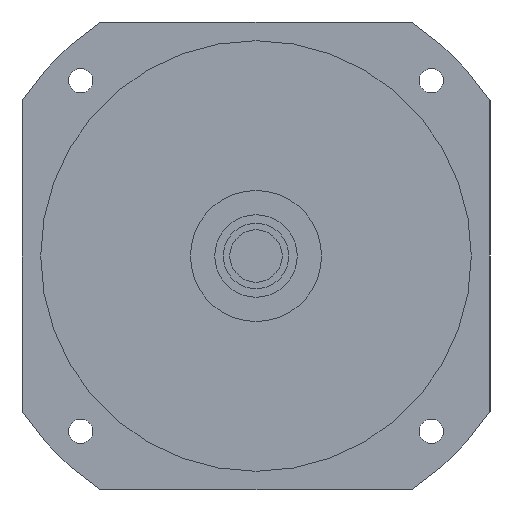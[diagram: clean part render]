
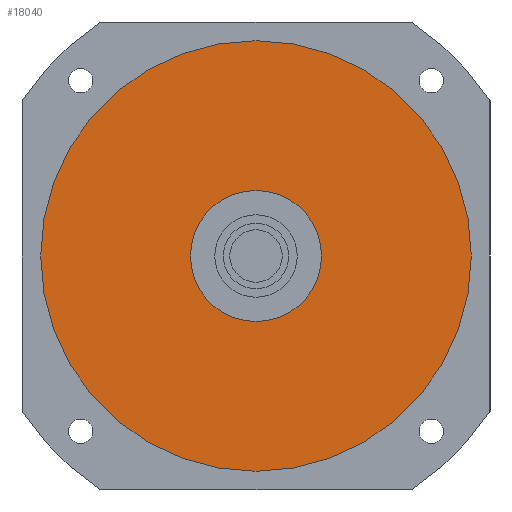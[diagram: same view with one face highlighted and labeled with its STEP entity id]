
A CAD part, left-side view. The second image highlights one B-rep face of the part: STEP entity #18040.
In plain terms, the highlighted planar face has unit normal (-1, 0, 0) as drawn and (0, 0, -1) by its records, which use the part's own axes.
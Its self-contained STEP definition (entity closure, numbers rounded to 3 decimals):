
#17460=CARTESIAN_POINT('',(115.,0.,-80.2));
#17470=VERTEX_POINT('',#17460);
#17560=CARTESIAN_POINT('',(-115.,0.,-80.2));
#17570=VERTEX_POINT('',#17560);
#17600=CARTESIAN_POINT('',(0.,0.,
-80.2));
#17610=DIRECTION('',(0.,0.,1.));
#17620=DIRECTION('',(0.,1.,0.));
#17630=AXIS2_PLACEMENT_3D('',#17600,#17610,#17620);
#17640=CIRCLE('',#17630,115.);
#17650=CARTESIAN_POINT('',(0.,115.,-80.2));
#17660=VERTEX_POINT('',#17650);
#17670=EDGE_CURVE('',#17660,#17570,#17640,.T.);
#17690=EDGE_CURVE('',#17470,#17660,#17640,.T.);
#17740=CARTESIAN_POINT('',(0.,0.,
-80.2));
#17750=DIRECTION('',(0.,0.,1.));
#17760=DIRECTION('',(-1.,0.,0.));
#17770=AXIS2_PLACEMENT_3D('',#17740,#17750,#17760);
#17780=PLANE('',#17770);
#17790=CARTESIAN_POINT('',(0.,0.,
-80.2));
#17800=DIRECTION('',(0.,0.,1.));
#17810=DIRECTION('',(0.,1.,0.));
#17820=AXIS2_PLACEMENT_3D('',#17790,#17800,#17810);
#17830=CIRCLE('',#17820,35.);
#17840=CARTESIAN_POINT('',(-35.,0.,-80.2));
#17850=VERTEX_POINT('',#17840);
#17860=CARTESIAN_POINT('',(35.,0.,-80.2));
#17870=VERTEX_POINT('',#17860);
#17880=EDGE_CURVE('',#17850,#17870,#17830,.T.);
#17890=ORIENTED_EDGE('',*,*,#17880,.T.);
#17900=CARTESIAN_POINT('',(0.,35.,-80.2));
#17910=VERTEX_POINT('',#17900);
#17920=EDGE_CURVE('',#17910,#17850,#17830,.T.);
#17930=ORIENTED_EDGE('',*,*,#17920,.T.);
#17940=EDGE_CURVE('',#17870,#17910,#17830,.T.);
#17950=ORIENTED_EDGE('',*,*,#17940,.T.);
#17960=EDGE_LOOP('',(#17950,#17930,#17890));
#17970=FACE_BOUND('',#17960,.T.);
#17980=ORIENTED_EDGE('',*,*,#17670,.F.);
#17990=EDGE_CURVE('',#17570,#17470,#17640,.T.);
#18000=ORIENTED_EDGE('',*,*,#17990,.F.);
#18010=ORIENTED_EDGE('',*,*,#17690,.F.);
#18020=EDGE_LOOP('',(#18010,#18000,#17980));
#18030=FACE_OUTER_BOUND('',#18020,.T.);
#18040=ADVANCED_FACE('',(#17970,#18030),#17780,.F.);
